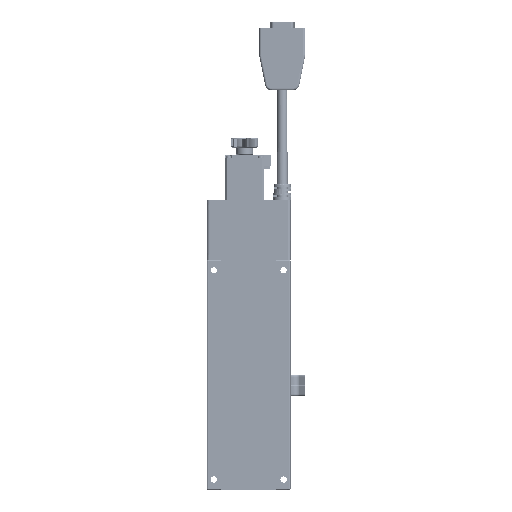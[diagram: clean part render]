
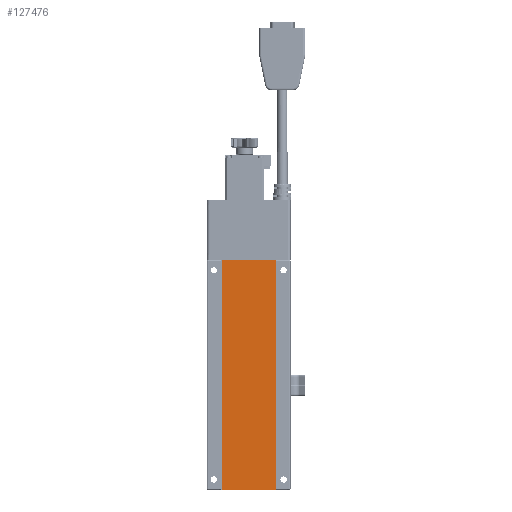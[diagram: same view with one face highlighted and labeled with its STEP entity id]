
A CAD part, front view. The second image highlights one B-rep face of the part: STEP entity #127476.
In plain terms, the highlighted planar face has unit normal (0, -1, 0).
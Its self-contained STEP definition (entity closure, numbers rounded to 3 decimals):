
#34573 = EDGE_LOOP ( 'NONE', ( #185987, #265683, #92988, #160206 ) ) ;
#40096 = CARTESIAN_POINT ( 'NONE',  ( 19.3, 0.8, 0.2 ) ) ;
#42265 = CARTESIAN_POINT ( 'NONE',  ( 19.3, 0.8, 0.2 ) ) ;
#50969 = EDGE_CURVE ( 'NONE', #247749, #68636, #237047, .T. ) ;
#52954 = FACE_OUTER_BOUND ( 'NONE', #34573, .T. ) ;
#59946 = CARTESIAN_POINT ( 'NONE',  ( -19.3, 0.8, 109.933 ) ) ;
#62575 = EDGE_CURVE ( 'NONE', #68636, #99601, #201938, .T. ) ;
#68636 = VERTEX_POINT ( 'NONE', #241749 ) ;
#85983 = CARTESIAN_POINT ( 'NONE',  ( 19.3, 0.8, 164.8 ) ) ;
#92988 = ORIENTED_EDGE ( 'NONE', *, *, #288094, .T. ) ;
#97600 = DIRECTION ( 'NONE',  ( 0., 1., 0. ) ) ;
#99601 = VERTEX_POINT ( 'NONE', #105348 ) ;
#105348 = CARTESIAN_POINT ( 'NONE',  ( 19.3, 0.8, 0.2 ) ) ;
#116503 = CARTESIAN_POINT ( 'NONE',  ( -19.3, 0.8, 0.2 ) ) ;
#116892 = B_SPLINE_CURVE_WITH_KNOTS ( 'NONE', 3,
 ( #42265, #206523, #303801, #208125 ),
 .UNSPECIFIED., .F., .F.,
 ( 4, 4 ),
 ( 0., 1. ),
 .UNSPECIFIED. ) ;
#117094 = CARTESIAN_POINT ( 'NONE',  ( 19.3, 0.8, 164.8 ) ) ;
#120139 = VERTEX_POINT ( 'NONE', #117094 ) ;
#123131 = DIRECTION ( 'NONE',  ( 1., 0., 0. ) ) ;
#127476 = ADVANCED_FACE ( 'NONE', ( #52954 ), #292115, .F. ) ;
#156101 = CARTESIAN_POINT ( 'NONE',  ( -19.3, 0.8, 164.8 ) ) ;
#160206 = ORIENTED_EDGE ( 'NONE', *, *, #50969, .T. ) ;
#165327 = B_SPLINE_CURVE_WITH_KNOTS ( 'NONE', 3,
 ( #85983, #210193, #179991, #156101 ),
 .UNSPECIFIED., .F., .F.,
 ( 4, 4 ),
 ( 0., 1. ),
 .UNSPECIFIED. ) ;
#176589 = CARTESIAN_POINT ( 'NONE',  ( -19.3, 0.8, 164.8 ) ) ;
#179991 = CARTESIAN_POINT ( 'NONE',  ( -6.433, 0.8, 164.8 ) ) ;
#185987 = ORIENTED_EDGE ( 'NONE', *, *, #62575, .T. ) ;
#193639 = AXIS2_PLACEMENT_3D ( 'NONE', #196431, #97600, #123131 ) ;
#196431 = CARTESIAN_POINT ( 'NONE',  ( -19.3, 0.8, 164.8 ) ) ;
#201829 = CARTESIAN_POINT ( 'NONE',  ( -19.3, 0.8, 164.8 ) ) ;
#201938 = B_SPLINE_CURVE_WITH_KNOTS ( 'NONE', 3,
 ( #116503, #263133, #207501, #40096 ),
 .UNSPECIFIED., .F., .F.,
 ( 4, 4 ),
 ( 0., 1. ),
 .UNSPECIFIED. ) ;
#206523 = CARTESIAN_POINT ( 'NONE',  ( 19.3, 0.8, 55.067 ) ) ;
#207501 = CARTESIAN_POINT ( 'NONE',  ( 6.433, 0.8, 0.2 ) ) ;
#208125 = CARTESIAN_POINT ( 'NONE',  ( 19.3, 0.8, 164.8 ) ) ;
#210193 = CARTESIAN_POINT ( 'NONE',  ( 6.433, 0.8, 164.8 ) ) ;
#237047 = B_SPLINE_CURVE_WITH_KNOTS ( 'NONE', 3,
 ( #201829, #59946, #300641, #299084 ),
 .UNSPECIFIED., .F., .F.,
 ( 4, 4 ),
 ( 0., 1. ),
 .UNSPECIFIED. ) ;
#241749 = CARTESIAN_POINT ( 'NONE',  ( -19.3, 0.8, 0.2 ) ) ;
#247749 = VERTEX_POINT ( 'NONE', #176589 ) ;
#263133 = CARTESIAN_POINT ( 'NONE',  ( -6.433, 0.8, 0.2 ) ) ;
#265683 = ORIENTED_EDGE ( 'NONE', *, *, #305097, .T. ) ;
#288094 = EDGE_CURVE ( 'NONE', #120139, #247749, #165327, .T. ) ;
#292115 = PLANE ( 'NONE',  #193639 ) ;
#299084 = CARTESIAN_POINT ( 'NONE',  ( -19.3, 0.8, 0.2 ) ) ;
#300641 = CARTESIAN_POINT ( 'NONE',  ( -19.3, 0.8, 55.067 ) ) ;
#303801 = CARTESIAN_POINT ( 'NONE',  ( 19.3, 0.8, 109.933 ) ) ;
#305097 = EDGE_CURVE ( 'NONE', #99601, #120139, #116892, .T. ) ;
